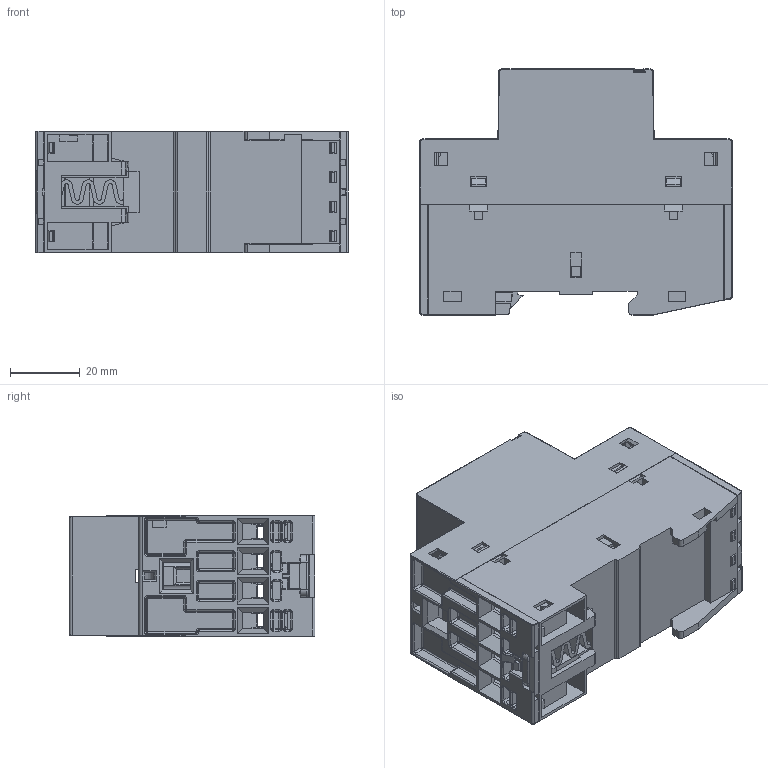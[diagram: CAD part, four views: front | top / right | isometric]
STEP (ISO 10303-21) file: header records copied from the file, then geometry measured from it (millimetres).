
FILE_DESCRIPTION (( 'STEP AP214' ), '1' );
FILE_NAME ('RSI_25.step', '2011-08-12T08:52:02', ( 'Radek Veselý' ), ( 'Siemens and Partners' ), 'SwSTEP 2.0', 'SolidWorks 2006303', '' );
FILE_SCHEMA (( 'AUTOMOTIVE_DESIGN' ));
Length unit declared in the file: millimetre
Products named in the file (1): RSI_25
Bounding box: 90 x 70.7 x 35 mm (x, y, z)
Volume: 43050.4 mm3; surface area: 71955.2 mm2
Topology: 15 solids, 16 shells, 3225 faces, 8897 edges, 5675 vertices
Faces by surface type: plane 2146, cylinder 380, torus 292, cone 229, bspline 172, sphere 6
Entity records: 145047 total; most frequent: CARTESIAN_POINT 28740, ORIENTED_EDGE 17742, DIRECTION 15409, EDGE_CURVE 8871, VECTOR 6477, LINE 6477, VERTEX_POINT 5675, AXIS2_PLACEMENT_3D 4466
